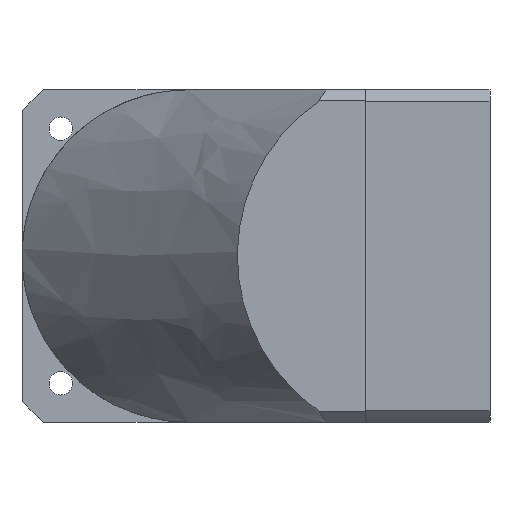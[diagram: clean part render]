
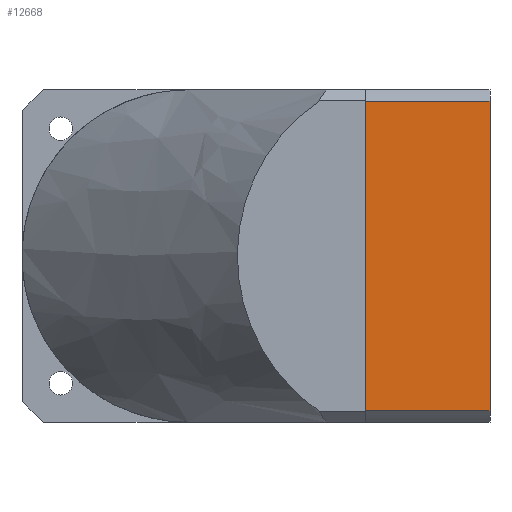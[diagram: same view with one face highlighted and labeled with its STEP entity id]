
A CAD part, front view. The second image highlights one B-rep face of the part: STEP entity #12668.
In plain terms, the highlighted planar face has unit normal (0, -1, 0).
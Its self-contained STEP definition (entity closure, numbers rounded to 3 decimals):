
#2639 = ORIENTED_EDGE ( 'NONE', *, *, #30548, .T. ) ;
#3201 = DIRECTION ( 'NONE',  ( 0., -1., 0. ) ) ;
#6606 = EDGE_LOOP ( 'NONE', ( #41064, #2639, #50619, #48303 ) ) ;
#8923 = VECTOR ( 'NONE', #19666, 1000. ) ;
#9642 = VERTEX_POINT ( 'NONE', #18936 ) ;
#10268 = FACE_OUTER_BOUND ( 'NONE', #6606, .T. ) ;
#10482 = VERTEX_POINT ( 'NONE', #45518 ) ;
#10895 = VECTOR ( 'NONE', #47492, 1000. ) ;
#12668 = ADVANCED_FACE ( 'NONE', ( #10268 ), #14581, .T. ) ;
#14581 = PLANE ( 'NONE',  #44271 ) ;
#15633 = CARTESIAN_POINT ( 'NONE',  ( 55.893, -60., -45. ) ) ;
#18159 = CARTESIAN_POINT ( 'NONE',  ( -55.893, -60., 0. ) ) ;
#18627 = CARTESIAN_POINT ( 'NONE',  ( -60., -60., -45. ) ) ;
#18936 = CARTESIAN_POINT ( 'NONE',  ( 55.893, -60., 0. ) ) ;
#19583 = LINE ( 'NONE', #15633, #8923 ) ;
#19666 = DIRECTION ( 'NONE',  ( 0., 0., 1. ) ) ;
#20465 = VERTEX_POINT ( 'NONE', #41386 ) ;
#28566 = VECTOR ( 'NONE', #51253, 1000. ) ;
#30548 = EDGE_CURVE ( 'NONE', #20465, #10482, #49908, .T. ) ;
#31178 = EDGE_CURVE ( 'NONE', #9642, #42372, #37955, .T. ) ;
#31266 = DIRECTION ( 'NONE',  ( 0., 0., -1. ) ) ;
#37863 = VECTOR ( 'NONE', #46610, 1000. ) ;
#37955 = LINE ( 'NONE', #43447, #10895 ) ;
#39395 = EDGE_CURVE ( 'NONE', #10482, #9642, #19583, .T. ) ;
#40189 = EDGE_CURVE ( 'NONE', #20465, #42372, #48490, .T. ) ;
#41064 = ORIENTED_EDGE ( 'NONE', *, *, #40189, .F. ) ;
#41386 = CARTESIAN_POINT ( 'NONE',  ( -55.893, -60., -45. ) ) ;
#42372 = VERTEX_POINT ( 'NONE', #18159 ) ;
#42411 = CARTESIAN_POINT ( 'NONE',  ( -55.893, -60., 0. ) ) ;
#43447 = CARTESIAN_POINT ( 'NONE',  ( 0., -60., 0. ) ) ;
#44271 = AXIS2_PLACEMENT_3D ( 'NONE', #18627, #3201, #31266 ) ;
#45518 = CARTESIAN_POINT ( 'NONE',  ( 55.893, -60., -45. ) ) ;
#46610 = DIRECTION ( 'NONE',  ( 0., 0., 1. ) ) ;
#47492 = DIRECTION ( 'NONE',  ( -1., 0., 0. ) ) ;
#48303 = ORIENTED_EDGE ( 'NONE', *, *, #31178, .T. ) ;
#48490 = LINE ( 'NONE', #42411, #37863 ) ;
#49908 = LINE ( 'NONE', #50906, #28566 ) ;
#50619 = ORIENTED_EDGE ( 'NONE', *, *, #39395, .T. ) ;
#50906 = CARTESIAN_POINT ( 'NONE',  ( -60., -60., -45. ) ) ;
#51253 = DIRECTION ( 'NONE',  ( 1., 0., 0. ) ) ;
